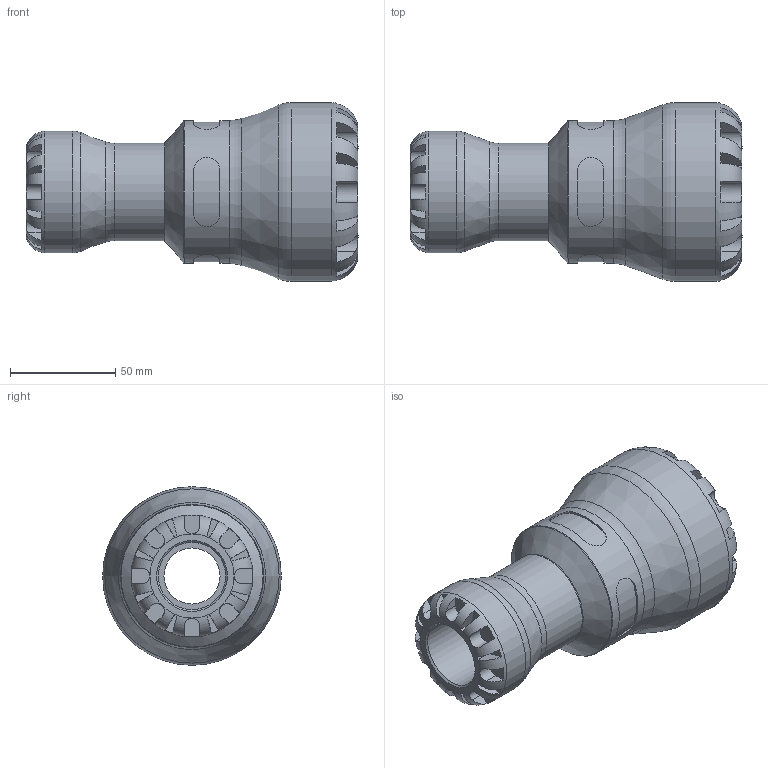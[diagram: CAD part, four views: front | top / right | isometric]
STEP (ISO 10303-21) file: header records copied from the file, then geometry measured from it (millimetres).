
FILE_DESCRIPTION(/* description */ ('PLASSON G-PLASS REDUCING COUPLING 50 x 32'),/* implementation_level */ '2;1');
FILE_NAME(/* name */ 'C:\Dropbox\KIMPROJECTS-Inventor 2019\99-16-3568-Processing\S1\151100\stp\151100050032.stp',/* time_stamp */ '2023-10-17T19:45:06+03:00',/* author */ ('KIM'),/* organization */ (''),/* preprocessor_version */ 'ST-DEVELOPER v17.2',/* originating_system */ 'Autodesk Inventor 2019',/* authorisation */ '');
FILE_SCHEMA (('AUTOMOTIVE_DESIGN { 1 0 10303 214 3 1 1 }'));
Length unit declared in the file: millimetre
Products named in the file (1): 151100050032
Bounding box: 158 x 85 x 85 mm (x, y, z)
Volume: 310113.1 mm3; surface area: 63607.1 mm2
Topology: 1 solids, 1 shells, 172 faces, 465 edges, 300 vertices
Faces by surface type: plane 108, cylinder 50, torus 8, cone 6
Full cylindrical faces by diameter (mm): 32 x1, 46.4 x1, 50 x1, 58 x1, 68 x1, 85 x1
Entity records: 6968 total; most frequent: CARTESIAN_POINT 2494, ORIENTED_EDGE 930, DIRECTION 895, EDGE_CURVE 465, AXIS2_PLACEMENT_3D 369, VERTEX_POINT 300, CIRCLE 196, EDGE_LOOP 179
